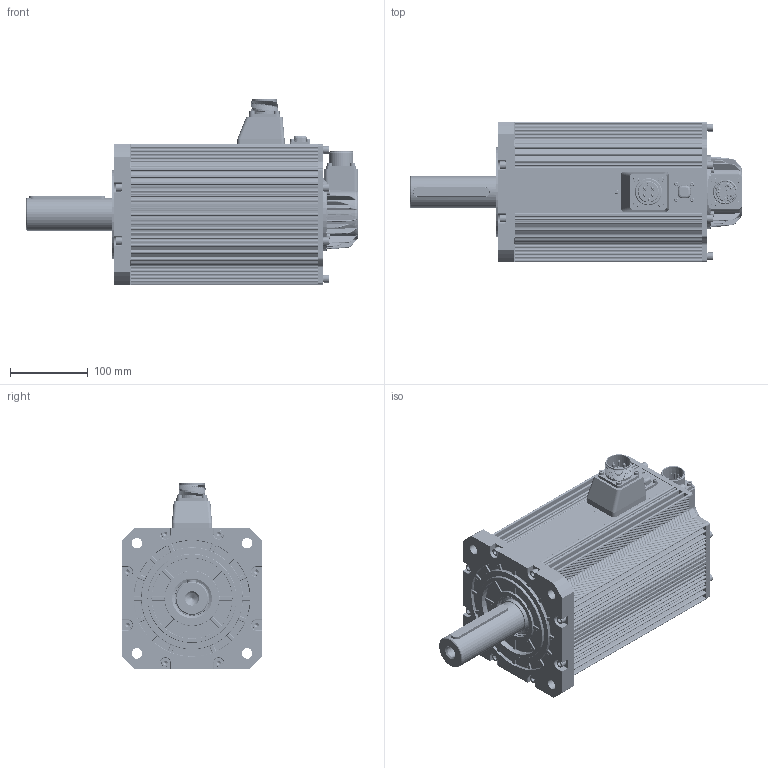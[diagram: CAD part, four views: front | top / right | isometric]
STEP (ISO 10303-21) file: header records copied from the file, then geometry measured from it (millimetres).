
FILE_DESCRIPTION((''),'2;1');
FILE_NAME('IMS20A-18M30C15C-M44_ASM','2024-11-14T13:10:47',('0108628'),(''),'CREO PARAMETRIC BY PTC INC, 2019080','CREO PARAMETRIC BY PTC INC, 2019080','');
FILE_SCHEMA(('CONFIG_CONTROL_DESIGN'));
Products named in the file (39): 83040197_AF0; 6206_AF0; 80100282_AF0; JB6695-161_AF0; ZHUAN180-3KW_AF0_ASM; 80040356_AF1; 5X8L; DZ-180-274L_AF0_ASM; GB93-6; GBT7R1-6X25; QIANDUANGAI_180_AF0; JB6695-161_AF1; YOUFENG; QDG_AF0_ASM; 87800001_AF0; M4X12-_AF00; M4X12-_AF10; M4X12-_AF20; M4X12-_AF30; JIAN; DIN912-M4X6-8_8_AF0; DINENISO7092-4_AF0; DIN912-M4X6-8_8_AF1; DINENISO7092-4_AF1; DIN912-M4X7-8_8; DINENISO7092-4; 86870277_AF0; YD32-180-TY; YD32-MD; YD32-MDS; DONGLI-HC-5015; YD32-4_ASM; BAOZHA-MFD; BAOZHA-MFG; XINHAO-HC-5015; DIN912-M4X40-8_8; DIN912-M4X12-8_8; M3X8; IMS20A-18M30C15C-M44_ASM
Assembly tree (78 placements, depth 3):
  IMS20A-18M30C15C-M44_ASM
    ZHUAN180-3KW_AF0_ASM
      83040197_AF0
      6206_AF0
      80100282_AF0
      JB6695-161_AF0
    DZ-180-274L_AF0_ASM
      80040356_AF1
      5X8L
    GB93-6  x9
    GBT7R1-6X25  x8
    QDG_AF0_ASM
      QIANDUANGAI_180_AF0
      JB6695-161_AF1
      GB93-6  x8
      GBT7R1-6X25  x8
      YOUFENG
    87800001_AF0
    M4X12-_AF00
    M4X12-_AF10
    M4X12-_AF20
    M4X12-_AF30
    JIAN
    DIN912-M4X6-8_8_AF0
    DINENISO7092-4_AF0
    DIN912-M4X6-8_8_AF1
    DINENISO7092-4_AF1
    DIN912-M4X7-8_8
    DINENISO7092-4
    86870277_AF0
    YD32-4_ASM
      YD32-180-TY
      YD32-MD
      YD32-MDS
      DONGLI-HC-5015
    BAOZHA-MFD
    BAOZHA-MFG
    XINHAO-HC-5015
    DIN912-M4X40-8_8  x4
    DIN912-M4X12-8_8  x4
    M3X8  x4
Bounding box: 426 x 180 x 237.4 mm (x, y, z)
Volume: 2159640.1 mm3; surface area: 864290.2 mm2
Topology: 73 solids, 139 shells, 7181 faces, 18566 edges, 11781 vertices
Faces by surface type: plane 2532, cylinder 2351, extrusion 732, bspline 520, cone 502, torus 400, sphere 144
Entity records: 268671 total; most frequent: CARTESIAN_POINT 116421, ORIENTED_EDGE 32888, DIRECTION 29401, EDGE_CURVE 16526, VERTEX_POINT 10623, AXIS2_PLACEMENT_3D 10246, VECTOR 8909, LINE 8177
